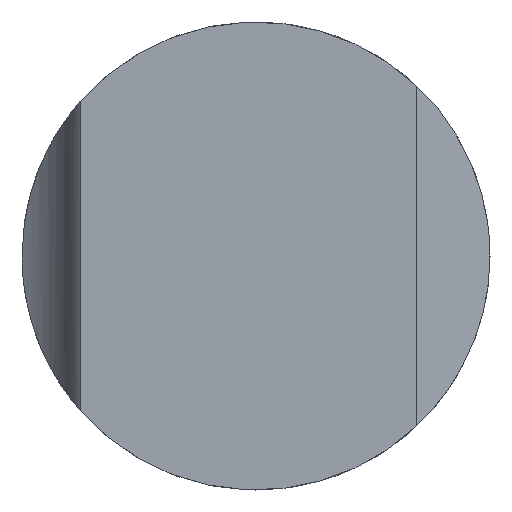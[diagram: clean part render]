
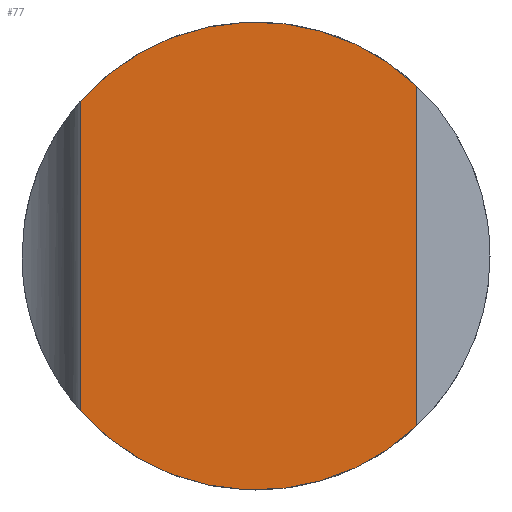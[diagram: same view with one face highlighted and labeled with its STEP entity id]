
A CAD part, left-side view. The second image highlights one B-rep face of the part: STEP entity #77.
In plain terms, the highlighted planar face has unit normal (-1, 0, 0).
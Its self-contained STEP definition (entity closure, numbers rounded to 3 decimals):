
#77=ADVANCED_FACE('',(#118),#117,.T.);
#117=PLANE('',#333);
#118=FACE_OUTER_BOUND('',#334,.T.);
#330=CARTESIAN_POINT('',(252.021,235.222,-27.617));
#331=DIRECTION('',(-1.,0.,0.));
#332=DIRECTION('',(0.,-1.,0.));
#333=AXIS2_PLACEMENT_3D('',#330,#331,#332);
#334=EDGE_LOOP('',(#499,#500,#501,#502));
#499=ORIENTED_EDGE('',*,*,#589,.F.);
#500=ORIENTED_EDGE('',*,*,#590,.T.);
#501=ORIENTED_EDGE('',*,*,#591,.F.);
#502=ORIENTED_EDGE('',*,*,#588,.F.);
#588=EDGE_CURVE('',#657,#650,#664,.T.);
#589=EDGE_CURVE('',#670,#657,#671,.T.);
#590=EDGE_CURVE('',#670,#677,#678,.T.);
#591=EDGE_CURVE('',#650,#677,#684,.T.);
#650=VERTEX_POINT('',#983);
#657=VERTEX_POINT('',#987);
#664=LINE('',#991,#992);
#670=VERTEX_POINT('',#994);
#671=CIRCLE('',#998,16.);
#677=VERTEX_POINT('',#999);
#678=LINE('',#1000,#1001);
#684=CIRCLE('',#1006,16.);
#983=CARTESIAN_POINT('',(252.021,209.922,-11.619));
#987=CARTESIAN_POINT('',(252.021,209.922,11.619));
#991=CARTESIAN_POINT('',(252.021,209.922,11.619));
#992=VECTOR('',#993,23.238);
#993=DIRECTION('',(0.,0.,-1.));
#994=CARTESIAN_POINT('',(252.021,232.922,10.583));
#995=CARTESIAN_POINT('',(252.021,220.922,0.));
#996=DIRECTION('',(1.,0.,0.));
#997=DIRECTION('',(0.,-1.,0.));
#998=AXIS2_PLACEMENT_3D('',#995,#996,#997);
#999=CARTESIAN_POINT('',(252.021,232.922,-10.583));
#1000=CARTESIAN_POINT('',(252.021,232.922,10.583));
#1001=VECTOR('',#1002,21.166);
#1002=DIRECTION('',(0.,0.,-1.));
#1003=CARTESIAN_POINT('',(252.021,220.922,0.));
#1004=DIRECTION('',(1.,0.,0.));
#1005=DIRECTION('',(0.,-1.,0.));
#1006=AXIS2_PLACEMENT_3D('',#1003,#1004,#1005);
